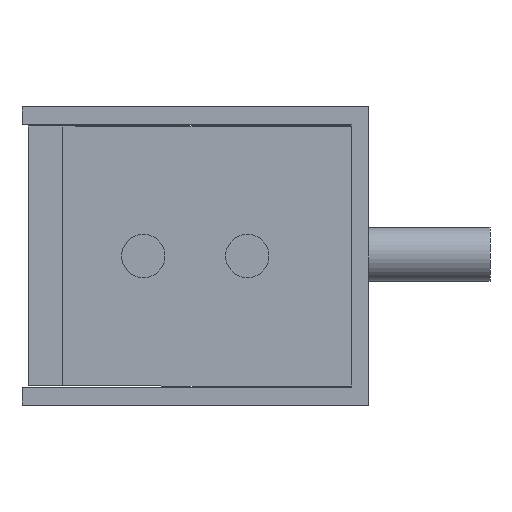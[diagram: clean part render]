
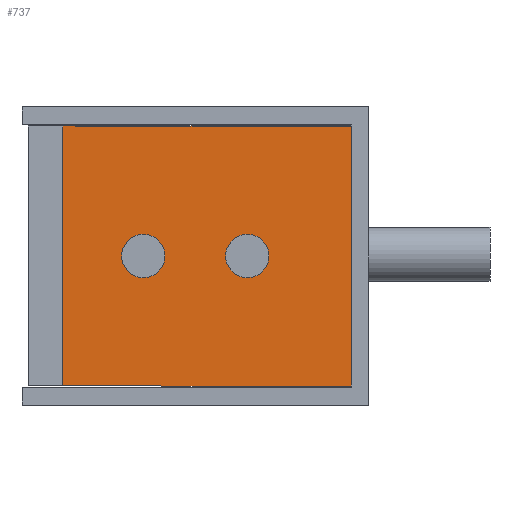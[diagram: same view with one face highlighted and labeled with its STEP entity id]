
A CAD part, left-side view. The second image highlights one B-rep face of the part: STEP entity #737.
In plain terms, the highlighted planar face has unit normal (-1, 0, 0).
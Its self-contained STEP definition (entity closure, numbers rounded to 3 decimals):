
#45=LINE('',#1271,#105);
#46=LINE('',#1272,#106);
#47=LINE('',#1274,#107);
#48=LINE('',#1275,#108);
#105=VECTOR('',#973,1000.);
#106=VECTOR('',#974,1000.);
#107=VECTOR('',#975,1000.);
#108=VECTOR('',#976,1000.);
#189=FACE_BOUND('',#259,.T.);
#190=FACE_BOUND('',#260,.T.);
#213=FACE_OUTER_BOUND('',#258,.T.);
#258=EDGE_LOOP('',(#569,#570,#571,#572));
#259=EDGE_LOOP('',(#573,#574));
#260=EDGE_LOOP('',(#575,#576));
#306=CIRCLE('',#819,1.25);
#307=CIRCLE('',#820,1.25);
#308=CIRCLE('',#822,1.25);
#309=CIRCLE('',#823,1.25);
#333=VERTEX_POINT('',#1101);
#358=VERTEX_POINT('',#1207);
#363=VERTEX_POINT('',#1221);
#364=VERTEX_POINT('',#1223);
#366=VERTEX_POINT('',#1270);
#367=VERTEX_POINT('',#1273);
#368=VERTEX_POINT('',#1276);
#369=VERTEX_POINT('',#1277);
#444=EDGE_CURVE('',#364,#363,#306,.T.);
#445=EDGE_CURVE('',#363,#364,#307,.T.);
#447=EDGE_CURVE('',#358,#366,#45,.T.);
#448=EDGE_CURVE('',#358,#333,#46,.T.);
#449=EDGE_CURVE('',#367,#333,#47,.T.);
#450=EDGE_CURVE('',#366,#367,#48,.T.);
#451=EDGE_CURVE('',#368,#369,#308,.T.);
#452=EDGE_CURVE('',#369,#368,#309,.T.);
#569=ORIENTED_EDGE('',*,*,#447,.F.);
#570=ORIENTED_EDGE('',*,*,#448,.T.);
#571=ORIENTED_EDGE('',*,*,#449,.F.);
#572=ORIENTED_EDGE('',*,*,#450,.F.);
#573=ORIENTED_EDGE('',*,*,#451,.T.);
#574=ORIENTED_EDGE('',*,*,#452,.T.);
#575=ORIENTED_EDGE('',*,*,#444,.T.);
#576=ORIENTED_EDGE('',*,*,#445,.T.);
#706=PLANE('',#821);
#737=ADVANCED_FACE('',(#213,#189,#190),#706,.F.);
#819=AXIS2_PLACEMENT_3D('',#1224,#967,#968);
#820=AXIS2_PLACEMENT_3D('',#1225,#969,#970);
#821=AXIS2_PLACEMENT_3D('',#1269,#971,#972);
#822=AXIS2_PLACEMENT_3D('',#1278,#977,#978);
#823=AXIS2_PLACEMENT_3D('',#1279,#979,#980);
#967=DIRECTION('center_axis',(1.,0.,0.));
#968=DIRECTION('ref_axis',(0.,0.,1.));
#969=DIRECTION('center_axis',(1.,0.,0.));
#970=DIRECTION('ref_axis',(0.,0.,1.));
#971=DIRECTION('center_axis',(1.,0.,0.));
#972=DIRECTION('ref_axis',(0.,0.,1.));
#973=DIRECTION('',(0.,1.,0.));
#974=DIRECTION('',(0.,0.,1.));
#975=DIRECTION('',(0.,-1.,0.));
#976=DIRECTION('',(0.,0.,1.));
#977=DIRECTION('center_axis',(1.,0.,0.));
#978=DIRECTION('ref_axis',(0.,0.,1.));
#979=DIRECTION('center_axis',(1.,0.,0.));
#980=DIRECTION('ref_axis',(0.,0.,1.));
#1101=CARTESIAN_POINT('',(-94.5,1.,16.099));
#1207=CARTESIAN_POINT('',(-94.5,1.,1.099));
#1221=CARTESIAN_POINT('',(-94.5,13.,7.349));
#1223=CARTESIAN_POINT('',(-94.5,13.,9.849));
#1224=CARTESIAN_POINT('Origin',(-94.5,13.,8.599));
#1225=CARTESIAN_POINT('Origin',(-94.5,13.,8.599));
#1269=CARTESIAN_POINT('Origin',(-94.5,17.65,1.099));
#1270=CARTESIAN_POINT('',(-94.5,17.65,1.099));
#1271=CARTESIAN_POINT('',(-94.5,1.,1.099));
#1272=CARTESIAN_POINT('',(-94.5,1.,0.999));
#1273=CARTESIAN_POINT('',(-94.5,17.65,16.099));
#1274=CARTESIAN_POINT('',(-94.5,1.,16.099));
#1275=CARTESIAN_POINT('',(-94.5,17.65,1.099));
#1276=CARTESIAN_POINT('',(-94.5,7.,9.849));
#1277=CARTESIAN_POINT('',(-94.5,7.,7.349));
#1278=CARTESIAN_POINT('Origin',(-94.5,7.,8.599));
#1279=CARTESIAN_POINT('Origin',(-94.5,7.,8.599));
